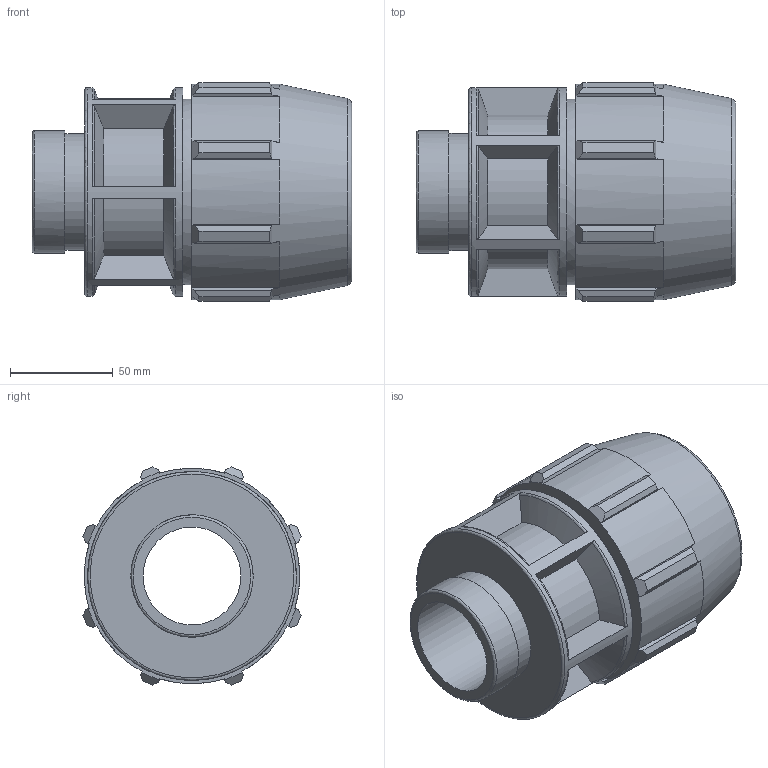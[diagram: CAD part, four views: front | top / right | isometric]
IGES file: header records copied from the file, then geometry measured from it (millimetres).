
Global section: file name: 0732M0020020; native system: Autodesk Inventor 2019; preprocessor: unknown; author: KIM; date: 20221117.143053; units: inch
Bounding box: 155.96 x 106.35 x 106.35 mm (x, y, z)
Volume: 601471 mm3; surface area: 99826.1 mm2
Topology: 1 solids, 1 shells, 126 faces, 353 edges, 241 vertices
Faces by surface type: bspline 126
